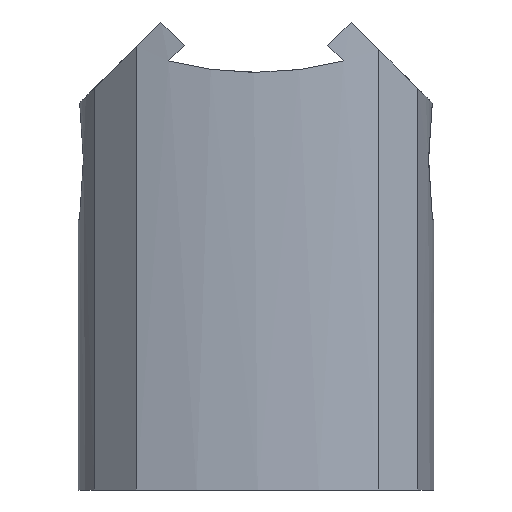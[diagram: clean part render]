
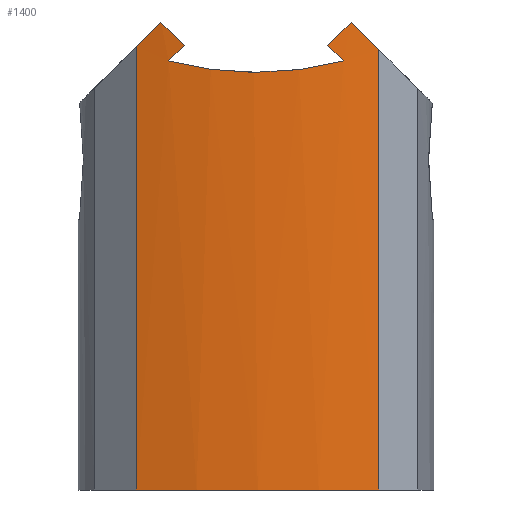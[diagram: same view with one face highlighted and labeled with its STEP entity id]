
A CAD part, front view. The second image highlights one B-rep face of the part: STEP entity #1400.
In plain terms, the highlighted cylindrical face has radius 42.501 mm (diameter 85.001 mm), a partial arc.
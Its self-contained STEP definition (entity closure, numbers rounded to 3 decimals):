
#8 = VERTEX_POINT ( 'NONE', #2874 ) ;
#51 = CARTESIAN_POINT ( 'NONE',  ( -14.518, -14.02, 38.015 ) ) ;
#65 = EDGE_CURVE ( 'NONE', #2550, #1813, #625, .T. ) ;
#204 = CARTESIAN_POINT ( 'NONE',  ( -25.848, -13.159, 42.5 ) ) ;
#230 = VERTEX_POINT ( 'NONE', #3248 ) ;
#244 = CARTESIAN_POINT ( 'NONE',  ( -27.332, -12.825, 41.016 ) ) ;
#290 = CARTESIAN_POINT ( 'NONE',  ( -6.066, -12.628, 42.5 ) ) ;
#313 = EDGE_CURVE ( 'NONE', #386, #8, #391, .T. ) ;
#327 = CARTESIAN_POINT ( 'NONE',  ( -8.579, -13.22, 42.5 ) ) ;
#336 = EDGE_LOOP ( 'NONE', ( #2253, #3768, #2705, #764, #1110, #511, #2547, #2060, #2427, #2379 ) ) ;
#350 = CARTESIAN_POINT ( 'NONE',  ( -17.879, -14.074, 37.925 ) ) ;
#386 = VERTEX_POINT ( 'NONE', #2600 ) ;
#391 = LINE ( 'NONE', #290, #2660 ) ;
#511 = ORIENTED_EDGE ( 'NONE', *, *, #313, .F. ) ;
#519 =( BOUNDED_CURVE ( )  B_SPLINE_CURVE ( 3, ( #3654, #2527, #1337, #3393 ),
 .UNSPECIFIED., .F., .F. ) 
 B_SPLINE_CURVE_WITH_KNOTS ( ( 4, 4 ),
 ( 1.38, 1.413 ),
 .UNSPECIFIED. ) 
 CURVE ( )  GEOMETRIC_REPRESENTATION_ITEM ( )  RATIONAL_B_SPLINE_CURVE ( ( 1., 1., 1., 1. ) ) 
 REPRESENTATION_ITEM ( '' )  );
#533 = CARTESIAN_POINT ( 'NONE',  ( -28.066, -12.628, 40.282 ) ) ;
#536 = B_SPLINE_CURVE_WITH_KNOTS ( 'NONE', 3,
 ( #911, #1201, #1814, #51, #2086, #350, #2399, #633, #2701, #925, #2982, #1208 ),
 .UNSPECIFIED., .F., .F.,
 ( 4, 2, 2, 2, 2, 4 ),
 ( 0., 0.004, 0.008, 0.01, 0.012, 0.016 ),
 .UNSPECIFIED. ) ;
#571 = DIRECTION ( 'NONE',  ( 0., 0., -1. ) ) ;
#572 = DIRECTION ( 'NONE',  ( 0., 0., -1. ) ) ;
#610 = CARTESIAN_POINT ( 'NONE',  ( -10.229, -13.525, 39.907 ) ) ;
#614 = CARTESIAN_POINT ( 'NONE',  ( -6.898, -12.851, 40.819 ) ) ;
#625 =( BOUNDED_CURVE ( )  B_SPLINE_CURVE ( 3, ( #2287, #3738, #244, #533 ),
 .UNSPECIFIED., .F., .F. ) 
 B_SPLINE_CURVE_WITH_KNOTS ( ( 4, 4 ),
 ( 4.921, 4.974 ),
 .UNSPECIFIED. ) 
 CURVE ( )  GEOMETRIC_REPRESENTATION_ITEM ( )  RATIONAL_B_SPLINE_CURVE ( ( 1., 1., 1., 1. ) ) 
 REPRESENTATION_ITEM ( '' )  );
#633 = CARTESIAN_POINT ( 'NONE',  ( -19.898, -13.987, 38.036 ) ) ;
#764 = ORIENTED_EDGE ( 'NONE', *, *, #2629, .T. ) ;
#844 = CARTESIAN_POINT ( 'NONE',  ( -25.848, -13.159, 42.5 ) ) ;
#890 = DIRECTION ( 'NONE',  ( 0., 0., -1. ) ) ;
#899 = CARTESIAN_POINT ( 'NONE',  ( -9.289, -13.358, 38.968 ) ) ;
#911 = CARTESIAN_POINT ( 'NONE',  ( -9.289, -13.358, 38.968 ) ) ;
#925 = CARTESIAN_POINT ( 'NONE',  ( -22.547, -13.742, 38.364 ) ) ;
#1012 = CARTESIAN_POINT ( 'NONE',  ( -10.7, -13.597, 40.379 ) ) ;
#1061 = CARTESIAN_POINT ( 'NONE',  ( -24.437, -13.438, 41.089 ) ) ;
#1107 = AXIS2_PLACEMENT_3D ( 'NONE', #1412, #3769, #2020 ) ;
#1110 = ORIENTED_EDGE ( 'NONE', *, *, #1345, .T. ) ;
#1156 = DIRECTION ( 'NONE',  ( -1., 0., 0. ) ) ;
#1201 = CARTESIAN_POINT ( 'NONE',  ( -10.577, -13.598, 38.623 ) ) ;
#1208 = CARTESIAN_POINT ( 'NONE',  ( -25.138, -13.303, 38.968 ) ) ;
#1260 =( BOUNDED_CURVE ( )  B_SPLINE_CURVE ( 3, ( #2372, #610, #2675, #899 ),
 .UNSPECIFIED., .F., .F. ) 
 B_SPLINE_CURVE_WITH_KNOTS ( ( 4, 4 ),
 ( 4.863, 4.896 ),
 .UNSPECIFIED. ) 
 CURVE ( )  GEOMETRIC_REPRESENTATION_ITEM ( )  RATIONAL_B_SPLINE_CURVE ( ( 1., 1., 1., 1. ) ) 
 REPRESENTATION_ITEM ( '' )  );
#1274 = CARTESIAN_POINT ( 'NONE',  ( -8.579, -13.22, 42.5 ) ) ;
#1292 = EDGE_CURVE ( 'NONE', #2835, #2550, #3420, .T. ) ;
#1337 = CARTESIAN_POINT ( 'NONE',  ( -24.198, -13.476, 39.907 ) ) ;
#1345 = EDGE_CURVE ( 'NONE', #2905, #8, #2497, .T. ) ;
#1400 = ADVANCED_FACE ( 'NONE', ( #3763 ), #1435, .T. ) ;
#1412 = CARTESIAN_POINT ( 'NONE',  ( -17.066, 28.425, 0. ) ) ;
#1435 = CYLINDRICAL_SURFACE ( 'NONE', #2887, 42.501 ) ;
#1735 = CARTESIAN_POINT ( 'NONE',  ( -28.066, -12.628, 0. ) ) ;
#1784 = CARTESIAN_POINT ( 'NONE',  ( -7.735, -13.048, 41.657 ) ) ;
#1786 = EDGE_CURVE ( 'NONE', #230, #3082, #536, .T. ) ;
#1813 = VERTEX_POINT ( 'NONE', #3560 ) ;
#1814 = CARTESIAN_POINT ( 'NONE',  ( -11.88, -13.779, 38.364 ) ) ;
#1818 = CARTESIAN_POINT ( 'NONE',  ( -25.138, -13.303, 38.968 ) ) ;
#1875 = CARTESIAN_POINT ( 'NONE',  ( -10.7, -13.597, 40.379 ) ) ;
#1934 = VERTEX_POINT ( 'NONE', #2054 ) ;
#1950 = CARTESIAN_POINT ( 'NONE',  ( -25.144, -13.307, 41.796 ) ) ;
#2020 = DIRECTION ( 'NONE',  ( 1., 0., 0. ) ) ;
#2054 = CARTESIAN_POINT ( 'NONE',  ( -8.579, -13.22, 42.5 ) ) ;
#2060 = ORIENTED_EDGE ( 'NONE', *, *, #3477, .T. ) ;
#2086 = CARTESIAN_POINT ( 'NONE',  ( -15.853, -14.08, 37.926 ) ) ;
#2100 = LINE ( 'NONE', #2361, #3564 ) ;
#2253 = ORIENTED_EDGE ( 'NONE', *, *, #2377, .T. ) ;
#2287 = CARTESIAN_POINT ( 'NONE',  ( -25.848, -13.159, 42.5 ) ) ;
#2340 = VERTEX_POINT ( 'NONE', #1012 ) ;
#2361 = CARTESIAN_POINT ( 'NONE',  ( -28.066, -12.628, 42.5 ) ) ;
#2370 =( BOUNDED_CURVE ( )  B_SPLINE_CURVE ( 3, ( #327, #1784, #614, #2684 ),
 .UNSPECIFIED., .F., .F. ) 
 B_SPLINE_CURVE_WITH_KNOTS ( ( 4, 4 ),
 ( 4.913, 4.974 ),
 .UNSPECIFIED. ) 
 CURVE ( )  GEOMETRIC_REPRESENTATION_ITEM ( )  RATIONAL_B_SPLINE_CURVE ( ( 1., 1., 1., 1. ) ) 
 REPRESENTATION_ITEM ( '' )  );
#2372 = CARTESIAN_POINT ( 'NONE',  ( -10.7, -13.597, 40.379 ) ) ;
#2377 = EDGE_CURVE ( 'NONE', #3082, #2835, #519, .T. ) ;
#2379 = ORIENTED_EDGE ( 'NONE', *, *, #1786, .T. ) ;
#2399 = CARTESIAN_POINT ( 'NONE',  ( -18.557, -14.055, 37.947 ) ) ;
#2427 = ORIENTED_EDGE ( 'NONE', *, *, #2649, .T. ) ;
#2457 = CARTESIAN_POINT ( 'NONE',  ( -9.283, -13.363, 41.796 ) ) ;
#2497 = CIRCLE ( 'NONE', #1107, 42.501 ) ;
#2527 = CARTESIAN_POINT ( 'NONE',  ( -24.669, -13.393, 39.437 ) ) ;
#2544 = CARTESIAN_POINT ( 'NONE',  ( -23.727, -13.551, 40.379 ) ) ;
#2547 = ORIENTED_EDGE ( 'NONE', *, *, #3044, .F. ) ;
#2550 = VERTEX_POINT ( 'NONE', #844 ) ;
#2600 = CARTESIAN_POINT ( 'NONE',  ( -6.066, -12.628, 39.987 ) ) ;
#2629 = EDGE_CURVE ( 'NONE', #1813, #2905, #2100, .T. ) ;
#2649 = EDGE_CURVE ( 'NONE', #2340, #230, #1260, .T. ) ;
#2660 = VECTOR ( 'NONE', #572, 1000. ) ;
#2675 = CARTESIAN_POINT ( 'NONE',  ( -9.758, -13.446, 39.437 ) ) ;
#2684 = CARTESIAN_POINT ( 'NONE',  ( -6.066, -12.628, 39.987 ) ) ;
#2701 = CARTESIAN_POINT ( 'NONE',  ( -20.563, -13.937, 38.102 ) ) ;
#2705 = ORIENTED_EDGE ( 'NONE', *, *, #65, .T. ) ;
#2835 = VERTEX_POINT ( 'NONE', #3156 ) ;
#2874 = CARTESIAN_POINT ( 'NONE',  ( -6.066, -12.628, 0. ) ) ;
#2887 = AXIS2_PLACEMENT_3D ( 'NONE', #3212, #571, #1156 ) ;
#2905 = VERTEX_POINT ( 'NONE', #1735 ) ;
#2982 = CARTESIAN_POINT ( 'NONE',  ( -23.851, -13.551, 38.623 ) ) ;
#3044 = EDGE_CURVE ( 'NONE', #1934, #386, #2370, .T. ) ;
#3082 = VERTEX_POINT ( 'NONE', #1818 ) ;
#3156 = CARTESIAN_POINT ( 'NONE',  ( -23.727, -13.551, 40.379 ) ) ;
#3212 = CARTESIAN_POINT ( 'NONE',  ( -17.066, 28.425, 42.5 ) ) ;
#3248 = CARTESIAN_POINT ( 'NONE',  ( -9.289, -13.358, 38.968 ) ) ;
#3393 = CARTESIAN_POINT ( 'NONE',  ( -23.727, -13.551, 40.379 ) ) ;
#3420 =( BOUNDED_CURVE ( )  B_SPLINE_CURVE ( 3, ( #2544, #1061, #1950, #204 ),
 .UNSPECIFIED., .F., .F. ) 
 B_SPLINE_CURVE_WITH_KNOTS ( ( 4, 4 ),
 ( 1.728, 1.779 ),
 .UNSPECIFIED. ) 
 CURVE ( )  GEOMETRIC_REPRESENTATION_ITEM ( )  RATIONAL_B_SPLINE_CURVE ( ( 1., 1., 1., 1. ) ) 
 REPRESENTATION_ITEM ( '' )  );
#3437 =( BOUNDED_CURVE ( )  B_SPLINE_CURVE ( 3, ( #1274, #2457, #3621, #1875 ),
 .UNSPECIFIED., .F., .F. ) 
 B_SPLINE_CURVE_WITH_KNOTS ( ( 4, 4 ),
 ( 4.511, 4.562 ),
 .UNSPECIFIED. ) 
 CURVE ( )  GEOMETRIC_REPRESENTATION_ITEM ( )  RATIONAL_B_SPLINE_CURVE ( ( 1., 1., 1., 1. ) ) 
 REPRESENTATION_ITEM ( '' )  );
#3477 = EDGE_CURVE ( 'NONE', #1934, #2340, #3437, .T. ) ;
#3560 = CARTESIAN_POINT ( 'NONE',  ( -28.066, -12.628, 40.282 ) ) ;
#3564 = VECTOR ( 'NONE', #890, 1000. ) ;
#3621 = CARTESIAN_POINT ( 'NONE',  ( -9.99, -13.489, 41.089 ) ) ;
#3654 = CARTESIAN_POINT ( 'NONE',  ( -25.138, -13.303, 38.968 ) ) ;
#3738 = CARTESIAN_POINT ( 'NONE',  ( -26.592, -13.002, 41.756 ) ) ;
#3763 = FACE_OUTER_BOUND ( 'NONE', #336, .T. ) ;
#3768 = ORIENTED_EDGE ( 'NONE', *, *, #1292, .T. ) ;
#3769 = DIRECTION ( 'NONE',  ( 0., 0., 1. ) ) ;
